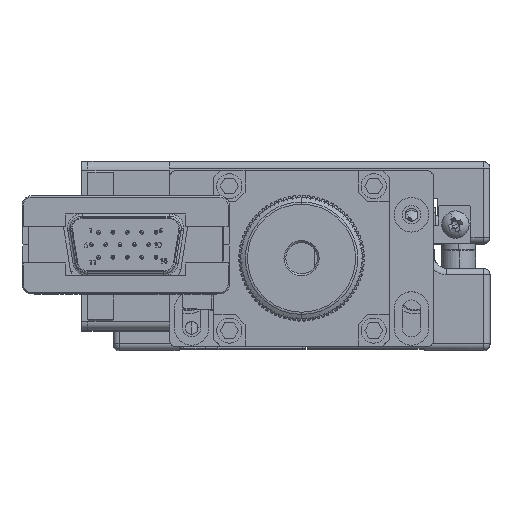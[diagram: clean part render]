
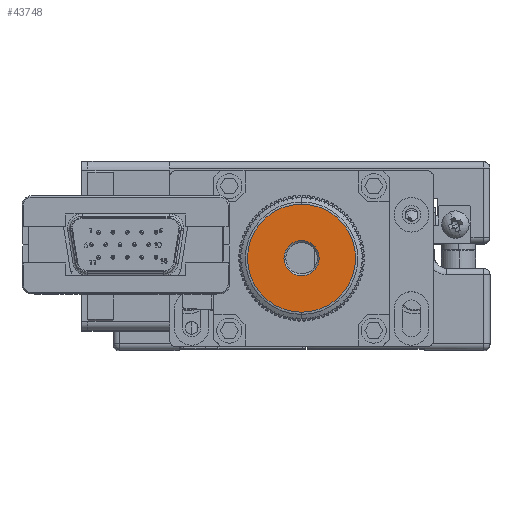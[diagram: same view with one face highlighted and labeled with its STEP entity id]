
A CAD part, top view. The second image highlights one B-rep face of the part: STEP entity #43748.
In plain terms, the highlighted planar face has unit normal (0, 0, 1) as drawn and (-1, 0, 0) by its records, which use the part's own axes.
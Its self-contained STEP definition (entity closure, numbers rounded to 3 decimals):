
#4588 = DIRECTION ( 'NONE',  ( -1., 0., 0. ) ) ;
#5653 = CIRCLE ( 'NONE', #80954, 8.6 ) ;
#6369 = AXIS2_PLACEMENT_3D ( 'NONE', #9522, #93916, #76936 ) ;
#8668 = VERTEX_POINT ( 'NONE', #101451 ) ;
#9522 = CARTESIAN_POINT ( 'NONE',  ( 0., 0., 0. ) ) ;
#9756 = ORIENTED_EDGE ( 'NONE', *, *, #86310, .T. ) ;
#10102 = VERTEX_POINT ( 'NONE', #54305 ) ;
#15410 = CARTESIAN_POINT ( 'NONE',  ( 0., 0., 0. ) ) ;
#17590 = DIRECTION ( 'NONE',  ( 1., 0., 0. ) ) ;
#19834 = ORIENTED_EDGE ( 'NONE', *, *, #55616, .T. ) ;
#22461 = DIRECTION ( 'NONE',  ( 0., 0., -1. ) ) ;
#24493 = DIRECTION ( 'NONE',  ( 0., 0., -1. ) ) ;
#28974 = EDGE_LOOP ( 'NONE', ( #9756, #19834 ) ) ;
#29644 = FACE_OUTER_BOUND ( 'NONE', #28974, .T. ) ;
#30759 = CARTESIAN_POINT ( 'NONE',  ( 0., 0., -2.8 ) ) ;
#32083 = ORIENTED_EDGE ( 'NONE', *, *, #68104, .T. ) ;
#32226 = CARTESIAN_POINT ( 'NONE',  ( 0., 0., 0. ) ) ;
#34038 = VERTEX_POINT ( 'NONE', #76267 ) ;
#37255 = CIRCLE ( 'NONE', #73970, 2.8 ) ;
#41516 = DIRECTION ( 'NONE',  ( 1., 0., 0. ) ) ;
#41580 = AXIS2_PLACEMENT_3D ( 'NONE', #32226, #41516, #24493 ) ;
#43748 = ADVANCED_FACE ( 'NONE', ( #29644, #89333 ), #104190, .F. ) ;
#46103 = VERTEX_POINT ( 'NONE', #30759 ) ;
#46286 = CARTESIAN_POINT ( 'NONE',  ( 0., 0., 0. ) ) ;
#54305 = CARTESIAN_POINT ( 'NONE',  ( 0., 0., 2.8 ) ) ;
#54472 = DIRECTION ( 'NONE',  ( 0., 0., -1. ) ) ;
#55365 = DIRECTION ( 'NONE',  ( 1., 0., 0. ) ) ;
#55616 = EDGE_CURVE ( 'NONE', #34038, #8668, #5653, .T. ) ;
#55997 = AXIS2_PLACEMENT_3D ( 'NONE', #88811, #55365, #22461 ) ;
#63407 = EDGE_CURVE ( 'NONE', #46103, #10102, #37255, .T. ) ;
#66623 = ORIENTED_EDGE ( 'NONE', *, *, #63407, .T. ) ;
#68104 = EDGE_CURVE ( 'NONE', #10102, #46103, #85395, .T. ) ;
#73347 = EDGE_LOOP ( 'NONE', ( #32083, #66623 ) ) ;
#73970 = AXIS2_PLACEMENT_3D ( 'NONE', #15410, #17590, #82278 ) ;
#74704 = CIRCLE ( 'NONE', #6369, 8.6 ) ;
#76267 = CARTESIAN_POINT ( 'NONE',  ( 0., 0., 8.6 ) ) ;
#76936 = DIRECTION ( 'NONE',  ( 0., 0., -1. ) ) ;
#80954 = AXIS2_PLACEMENT_3D ( 'NONE', #46286, #4588, #54472 ) ;
#82278 = DIRECTION ( 'NONE',  ( 0., 0., -1. ) ) ;
#85395 = CIRCLE ( 'NONE', #41580, 2.8 ) ;
#86310 = EDGE_CURVE ( 'NONE', #8668, #34038, #74704, .T. ) ;
#88811 = CARTESIAN_POINT ( 'NONE',  ( 0., 0., 0. ) ) ;
#89333 = FACE_BOUND ( 'NONE', #73347, .T. ) ;
#93916 = DIRECTION ( 'NONE',  ( -1., 0., 0. ) ) ;
#101451 = CARTESIAN_POINT ( 'NONE',  ( 0., 0., -8.6 ) ) ;
#104190 = PLANE ( 'NONE',  #55997 ) ;
